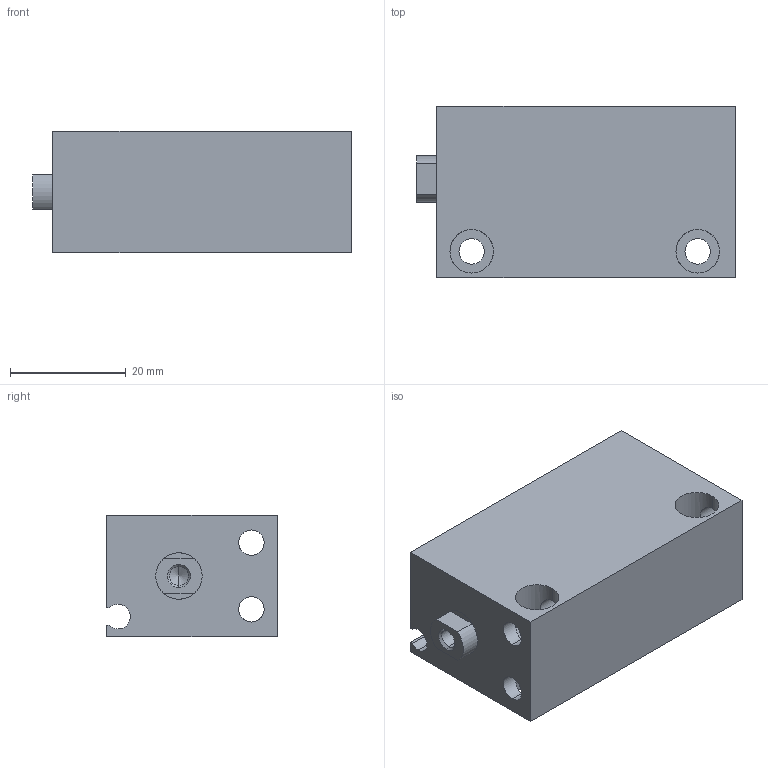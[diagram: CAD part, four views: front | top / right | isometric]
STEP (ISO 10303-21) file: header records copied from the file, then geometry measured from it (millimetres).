
FILE_DESCRIPTION (( 'STEP AP203' ), '1' );
FILE_NAME ('CLJB16-35.STEP', '2020-07-30T19:24:12', ( '' ), ( '' ), 'SwSTEP 2.0', 'SolidWorks 2019', '' );
FILE_SCHEMA (( 'CONFIG_CONTROL_DESIGN' ));
Length unit declared in the file: millimetre
Products named in the file (1): CLJB16-35
Bounding box: 55 x 29.5 x 21 mm (x, y, z)
Volume: 23350.2 mm3; surface area: 12589.6 mm2
Topology: 2 solids, 2 shells, 75 faces, 188 edges, 113 vertices
Faces by surface type: cylinder 41, plane 22, cone 12
Entity records: 3119 total; most frequent: CARTESIAN_POINT 1223, DIRECTION 394, ORIENTED_EDGE 364, EDGE_CURVE 182, AXIS2_PLACEMENT_3D 152, VERTEX_POINT 113, EDGE_LOOP 93, LINE 90
